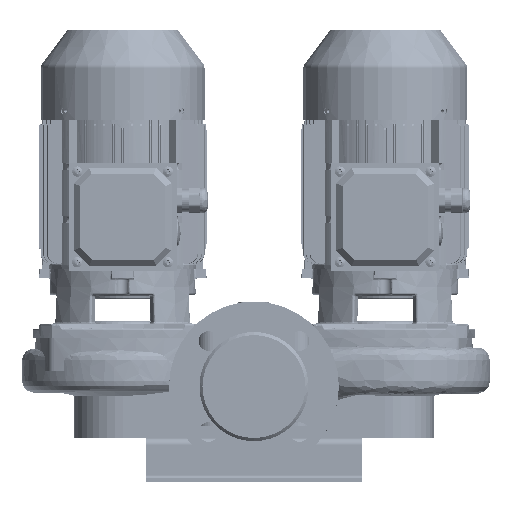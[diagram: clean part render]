
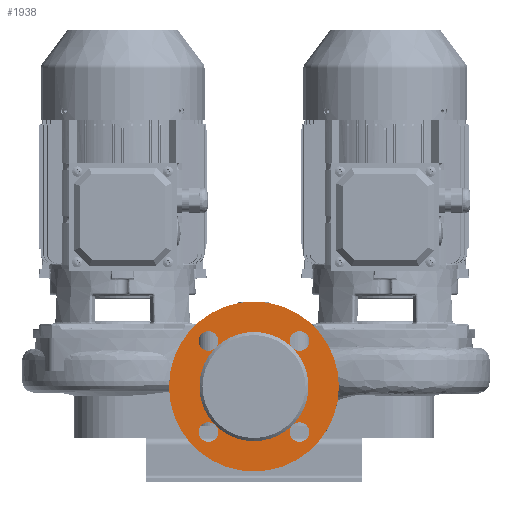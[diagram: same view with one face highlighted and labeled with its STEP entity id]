
A CAD part, front view. The second image highlights one B-rep face of the part: STEP entity #1938.
In plain terms, the highlighted planar face has unit normal (0, -1, 0) as drawn and (-1, 0, 0) by its records, which use the part's own axes.
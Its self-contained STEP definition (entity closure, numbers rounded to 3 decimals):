
#1938=ADVANCED_FACE('',(#3624,#3625),#3626,.T.);
#1982=EDGE_CURVE('',#3693,#3694,#3695,.T.);
#1984=EDGE_CURVE('',#3697,#3693,#3698,.T.);
#1986=EDGE_CURVE('',#3700,#3697,#3701,.T.);
#1990=EDGE_CURVE('',#3707,#3708,#3709,.T.);
#1994=EDGE_CURVE('',#3715,#3716,#3717,.T.);
#1998=EDGE_CURVE('',#3723,#3724,#3725,.T.);
#2002=EDGE_CURVE('',#3731,#3732,#3733,.T.);
#2006=EDGE_CURVE('',#3739,#3740,#3741,.T.);
#2198=EDGE_CURVE('',#3740,#3739,#4024,.T.);
#2202=EDGE_CURVE('',#3697,#3731,#4028,.T.);
#2204=EDGE_CURVE('',#3732,#3697,#4030,.T.);
#2206=EDGE_CURVE('',#3693,#3723,#4032,.T.);
#2208=EDGE_CURVE('',#3724,#3693,#4034,.T.);
#2210=EDGE_CURVE('',#4036,#3715,#4037,.T.);
#2212=EDGE_CURVE('',#3716,#4036,#4039,.T.);
#2214=EDGE_CURVE('',#4041,#3707,#4042,.T.);
#2216=EDGE_CURVE('',#3708,#4041,#4044,.T.);
#2218=EDGE_CURVE('',#3694,#4036,#4046,.T.);
#2220=EDGE_CURVE('',#4036,#4041,#4048,.T.);
#2222=EDGE_CURVE('',#4041,#3700,#4050,.T.);
#3624=FACE_OUTER_BOUND('',#9064,.T.);
#3625=FACE_BOUND('',#9065,.T.);
#3626=PLANE('',#9066);
#3693=VERTEX_POINT('',#10449);
#3694=VERTEX_POINT('',#10450);
#3695=CIRCLE('',#10451,53.0);
#3697=VERTEX_POINT('',#10454);
#3698=CIRCLE('',#10455,53.0);
#3700=VERTEX_POINT('',#10458);
#3701=CIRCLE('',#10459,53.0);
#3707=VERTEX_POINT('',#10467);
#3708=VERTEX_POINT('',#10468);
#3709=CIRCLE('',#10469,9.5);
#3715=VERTEX_POINT('',#10477);
#3716=VERTEX_POINT('',#10478);
#3717=CIRCLE('',#10479,9.5);
#3723=VERTEX_POINT('',#10487);
#3724=VERTEX_POINT('',#10488);
#3725=CIRCLE('',#10489,9.5);
#3731=VERTEX_POINT('',#10497);
#3732=VERTEX_POINT('',#10498);
#3733=CIRCLE('',#10499,9.5);
#3739=VERTEX_POINT('',#10507);
#3740=VERTEX_POINT('',#10508);
#3741=CIRCLE('',#10509,82.5);
#4024=CIRCLE('',#10968,82.5);
#4028=CIRCLE('',#10974,9.5);
#4030=CIRCLE('',#10977,9.5);
#4032=CIRCLE('',#10980,9.5);
#4034=CIRCLE('',#10983,9.5);
#4036=VERTEX_POINT('',#10986);
#4037=CIRCLE('',#10987,9.5);
#4039=CIRCLE('',#10990,9.5);
#4041=VERTEX_POINT('',#10993);
#4042=CIRCLE('',#10994,9.5);
#4044=CIRCLE('',#10997,9.5);
#4046=CIRCLE('',#11000,53.0);
#4048=CIRCLE('',#11003,53.0);
#4050=CIRCLE('',#11006,53.0);
#9064=EDGE_LOOP('',(#18588,#18589));
#9065=EDGE_LOOP('',(#18590,#18591,#18592,#18593,#18594,#18595,#18596,#18597,#18598,#18599,#18600,#18601,#18602,#18603,#18604,#18605,#18606,#18607));
#9066=AXIS2_PLACEMENT_3D('',#18608,#18609,#18610);
#10449=CARTESIAN_POINT('',(-157.0,37.477,21.977));
#10450=CARTESIAN_POINT('',(-157.0,0.,37.5));
#10451=AXIS2_PLACEMENT_3D('',#18770,#18771,#18772);
#10454=CARTESIAN_POINT('',(-157.0,37.477,-52.977));
#10455=AXIS2_PLACEMENT_3D('',#18773,#18774,#18775);
#10458=CARTESIAN_POINT('',(-157.0,0.,-68.5));
#10459=AXIS2_PLACEMENT_3D('',#18776,#18777,#18778);
#10467=CARTESIAN_POINT('',(-157.0,-49.553,-51.85));
#10468=CARTESIAN_POINT('',(-157.0,-38.835,-67.538));
#10469=AXIS2_PLACEMENT_3D('',#18782,#18783,#18784);
#10477=CARTESIAN_POINT('',(-157.,-36.35,34.053));
#10478=CARTESIAN_POINT('',(-157.,-52.038,23.335));
#10479=AXIS2_PLACEMENT_3D('',#18788,#18789,#18790);
#10487=CARTESIAN_POINT('',(-157.,49.553,20.85));
#10488=CARTESIAN_POINT('',(-157.,38.835,36.538));
#10489=AXIS2_PLACEMENT_3D('',#18794,#18795,#18796);
#10497=CARTESIAN_POINT('',(-157.0,36.35,-65.053));
#10498=CARTESIAN_POINT('',(-157.0,52.038,-54.335));
#10499=AXIS2_PLACEMENT_3D('',#18800,#18801,#18802);
#10507=CARTESIAN_POINT('',(-157.0,0.,-98.0));
#10508=CARTESIAN_POINT('',(-157.0,0.,67.0));
#10509=AXIS2_PLACEMENT_3D('',#18806,#18807,#18808);
#10968=AXIS2_PLACEMENT_3D('',#19046,#19047,#19048);
#10974=AXIS2_PLACEMENT_3D('',#19052,#19053,#19054);
#10977=AXIS2_PLACEMENT_3D('',#19055,#19056,#19057);
#10980=AXIS2_PLACEMENT_3D('',#19058,#19059,#19060);
#10983=AXIS2_PLACEMENT_3D('',#19061,#19062,#19063);
#10986=CARTESIAN_POINT('',(-157.0,-37.477,21.977));
#10987=AXIS2_PLACEMENT_3D('',#19064,#19065,#19066);
#10990=AXIS2_PLACEMENT_3D('',#19067,#19068,#19069);
#10993=CARTESIAN_POINT('',(-157.0,-37.477,-52.977));
#10994=AXIS2_PLACEMENT_3D('',#19070,#19071,#19072);
#10997=AXIS2_PLACEMENT_3D('',#19073,#19074,#19075);
#11000=AXIS2_PLACEMENT_3D('',#19076,#19077,#19078);
#11003=AXIS2_PLACEMENT_3D('',#19079,#19080,#19081);
#11006=AXIS2_PLACEMENT_3D('',#19082,#19083,#19084);
#18588=ORIENTED_EDGE('',*,*,#2198,.F.);
#18589=ORIENTED_EDGE('',*,*,#2006,.F.);
#18590=ORIENTED_EDGE('',*,*,#1982,.T.);
#18591=ORIENTED_EDGE('',*,*,#2218,.T.);
#18592=ORIENTED_EDGE('',*,*,#2210,.T.);
#18593=ORIENTED_EDGE('',*,*,#1994,.T.);
#18594=ORIENTED_EDGE('',*,*,#2212,.T.);
#18595=ORIENTED_EDGE('',*,*,#2220,.T.);
#18596=ORIENTED_EDGE('',*,*,#2214,.T.);
#18597=ORIENTED_EDGE('',*,*,#1990,.T.);
#18598=ORIENTED_EDGE('',*,*,#2216,.T.);
#18599=ORIENTED_EDGE('',*,*,#2222,.T.);
#18600=ORIENTED_EDGE('',*,*,#1986,.T.);
#18601=ORIENTED_EDGE('',*,*,#2202,.T.);
#18602=ORIENTED_EDGE('',*,*,#2002,.T.);
#18603=ORIENTED_EDGE('',*,*,#2204,.T.);
#18604=ORIENTED_EDGE('',*,*,#1984,.T.);
#18605=ORIENTED_EDGE('',*,*,#2206,.T.);
#18606=ORIENTED_EDGE('',*,*,#1998,.T.);
#18607=ORIENTED_EDGE('',*,*,#2208,.T.);
#18608=CARTESIAN_POINT('',(-157.0,0.,-83.25));
#18609=DIRECTION('',(-1.0,0.0,0.0));
#18610=DIRECTION('',(0.0,0.0,1.0));
#18770=CARTESIAN_POINT('',(-157.0,0.,-15.5));
#18771=DIRECTION('',(1.0,0.0,0.0));
#18772=DIRECTION('',(0.0,0.0,-1.0));
#18773=CARTESIAN_POINT('',(-157.0,0.,-15.5));
#18774=DIRECTION('',(1.0,0.0,0.0));
#18775=DIRECTION('',(0.0,0.0,-1.0));
#18776=CARTESIAN_POINT('',(-157.0,0.,-15.5));
#18777=DIRECTION('',(1.0,0.0,0.0));
#18778=DIRECTION('',(0.0,0.0,-1.0));
#18782=CARTESIAN_POINT('',(-157.0,-44.194,-59.694));
#18783=DIRECTION('',(1.0,0.0,0.0));
#18784=DIRECTION('',(0.0,-0.564,0.826));
#18788=CARTESIAN_POINT('',(-157.,-44.194,28.694));
#18789=DIRECTION('',(1.0,0.0,-0.0));
#18790=DIRECTION('',(0.0,0.826,0.564));
#18794=CARTESIAN_POINT('',(-157.,44.194,28.694));
#18795=DIRECTION('',(1.0,0.0,0.0));
#18796=DIRECTION('',(0.0,0.564,-0.826));
#18800=CARTESIAN_POINT('',(-157.0,44.194,-59.694));
#18801=DIRECTION('',(1.0,0.0,0.0));
#18802=DIRECTION('',(0.0,-0.826,-0.564));
#18806=CARTESIAN_POINT('',(-157.0,0.,-15.5));
#18807=DIRECTION('',(1.0,0.0,0.0));
#18808=DIRECTION('',(0.0,0.0,-1.0));
#19046=CARTESIAN_POINT('',(-157.0,0.,-15.5));
#19047=DIRECTION('',(1.0,0.0,0.0));
#19048=DIRECTION('',(0.0,0.0,-1.0));
#19052=CARTESIAN_POINT('',(-157.0,44.194,-59.694));
#19053=DIRECTION('',(1.0,0.0,0.0));
#19054=DIRECTION('',(0.0,-0.826,-0.564));
#19055=CARTESIAN_POINT('',(-157.0,44.194,-59.694));
#19056=DIRECTION('',(1.0,0.0,0.0));
#19057=DIRECTION('',(0.0,-0.826,-0.564));
#19058=CARTESIAN_POINT('',(-157.,44.194,28.694));
#19059=DIRECTION('',(1.0,0.0,0.0));
#19060=DIRECTION('',(0.0,0.564,-0.826));
#19061=CARTESIAN_POINT('',(-157.,44.194,28.694));
#19062=DIRECTION('',(1.0,0.0,0.0));
#19063=DIRECTION('',(0.0,0.564,-0.826));
#19064=CARTESIAN_POINT('',(-157.,-44.194,28.694));
#19065=DIRECTION('',(1.0,0.0,-0.0));
#19066=DIRECTION('',(0.0,0.826,0.564));
#19067=CARTESIAN_POINT('',(-157.,-44.194,28.694));
#19068=DIRECTION('',(1.0,0.0,-0.0));
#19069=DIRECTION('',(0.0,0.826,0.564));
#19070=CARTESIAN_POINT('',(-157.0,-44.194,-59.694));
#19071=DIRECTION('',(1.0,0.0,0.0));
#19072=DIRECTION('',(0.0,-0.564,0.826));
#19073=CARTESIAN_POINT('',(-157.0,-44.194,-59.694));
#19074=DIRECTION('',(1.0,0.0,0.0));
#19075=DIRECTION('',(0.0,-0.564,0.826));
#19076=CARTESIAN_POINT('',(-157.0,0.,-15.5));
#19077=DIRECTION('',(1.0,0.0,0.0));
#19078=DIRECTION('',(0.0,0.0,-1.0));
#19079=CARTESIAN_POINT('',(-157.0,0.,-15.5));
#19080=DIRECTION('',(1.0,0.0,0.0));
#19081=DIRECTION('',(0.0,0.0,-1.0));
#19082=CARTESIAN_POINT('',(-157.0,0.,-15.5));
#19083=DIRECTION('',(1.0,0.0,0.0));
#19084=DIRECTION('',(0.0,0.0,-1.0));
